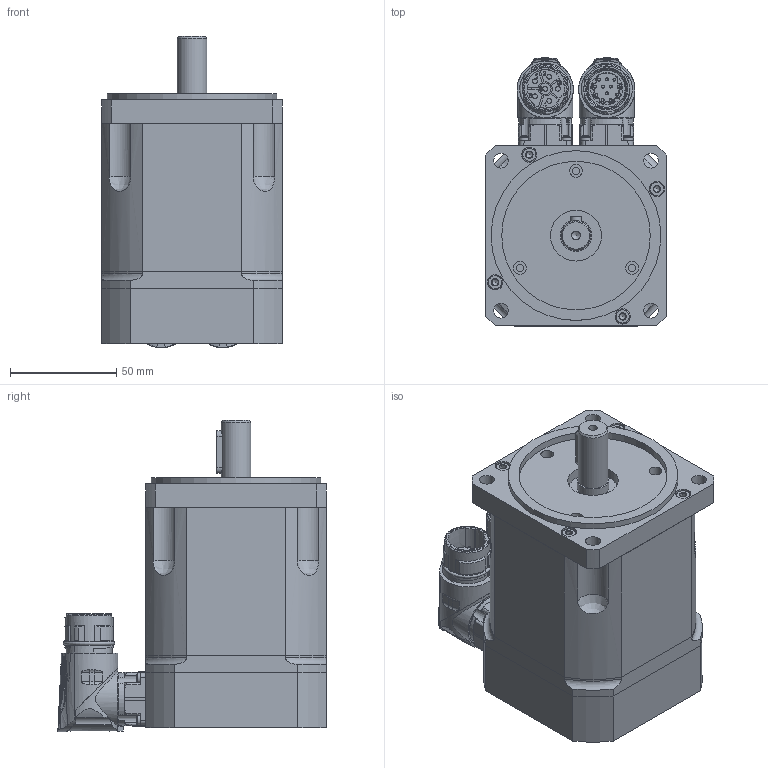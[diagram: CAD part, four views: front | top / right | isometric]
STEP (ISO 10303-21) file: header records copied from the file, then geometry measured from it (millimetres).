
FILE_DESCRIPTION(/* description */ (''),/* implementation_level */ '2;1');
FILE_NAME(/* name */ 'C:\Users\Public\Documents\Autodesk\Inventor LT 2014\Workspace\Motori Sito WEB\TG_COMPATTI\STEP_COMPATTI\DSM5_30_x197.stp',/* time_stamp */ '2021-03-27T11:58:28+01:00',/* author */ ('marcor'),/* organization */ (''),/* preprocessor_version */ 'ST-DEVELOPER v15.2',/* originating_system */ 'Autodesk Inventor LT ',/* authorisation */ '');
FILE_SCHEMA (('AUTOMOTIVE_DESIGN { 1 0 10303 214 3 1 1 }'));
Products named in the file (1): DSM5_30_x197
Bounding box: 85 x 126.5 x 146.81 mm (x, y, z)
Volume: 835177.4 mm3; surface area: 121827.1 mm2
Topology: 16 solids, 30 shells, 1439 faces, 3728 edges, 2481 vertices
Faces by surface type: plane 531, cylinder 441, cone 247, bspline 117, torus 75, sphere 28
Full cylindrical faces by diameter (mm): 1.2 x12, 2.224 x8, 2.233 x6, 2.5 x8, 2.88 x8, 3.242 x12, 3.26 x8, 3.5 x3, 4 x12, 4.134 x1, 4.5 x14, 4.8 x8, 5.5 x3, 5.9 x2, 6 x3, 7 x16, 7.2 x8, 7.5 x4, 13.8 x1, 14 x1, 14.98 x1, 15.2 x1, 17.4 x3, 18 x1, 19.8 x1, 21.15 x4, 21.6 x1, 21.653 x2, 24 x1, 24.3 x2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
Entity records: 51166 total; most frequent: CARTESIAN_POINT 17889, ORIENTED_EDGE 6574, DIRECTION 6125, EDGE_CURVE 3287, AXIS2_PLACEMENT_3D 2515, VERTEX_POINT 2369, EDGE_LOOP 1964, ADVANCED_FACE 1439
